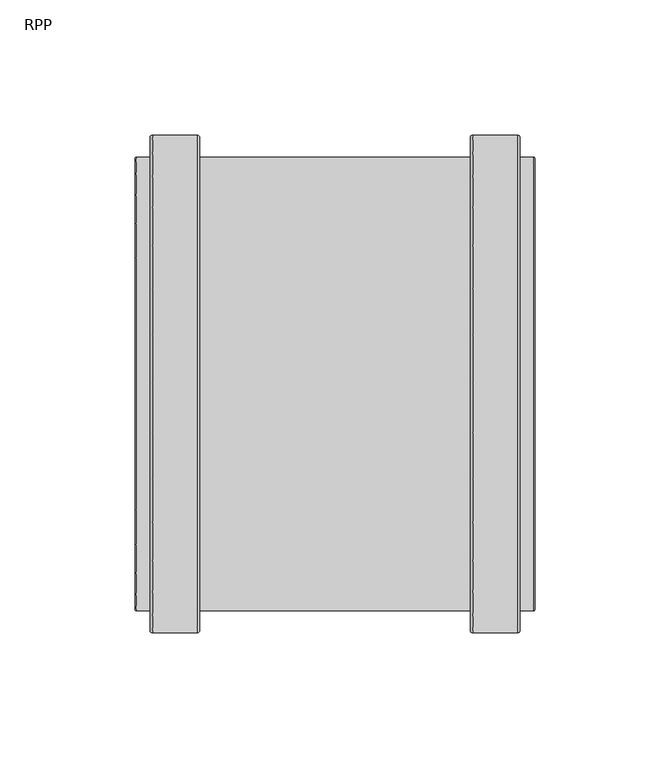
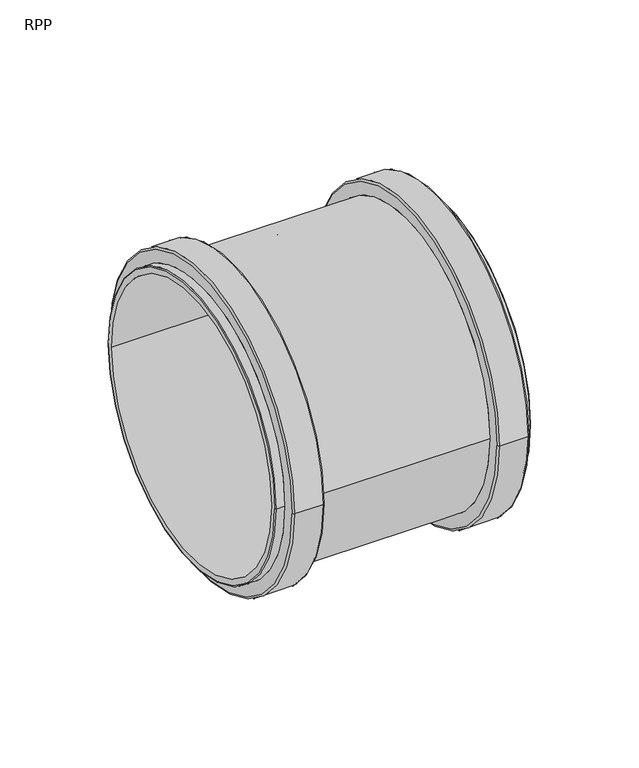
"""IFC4 building model written with IfcOpenShell, lengths in millimetres: pipe fitting geometry, RAUPIANO PLUS Double socket : RPP."""

from ifc_helpers import new_model, si_unit, point, frame, origin, place, context, project, spatial, polyline, circle_curve, ellipse_curve, trimmed, source, transform, mapped, element, save
from ifc_brep_helpers import plane_surface, cylinder_surface, revolved_surface, advanced_brep


def rpp_a5cbb0f9(model_context):
    return source(origin(), model_context, "Body", "AdvancedBrep", [
        advanced_brep(
        [(-67.5, 92.05, 0.0), (-67.5, -92.05, 0.0), (-68.5, -91.05, 0.0), (-68.5, 91.05, 0.0), (-51.1, 92.05, 0.0), (-51.1, -92.05, 0.0), (-50.1, 91.05, 0.0), (-50.1, -91.05, 0.0), (50.1, 83.9, 0.0), (50.1, -83.9, 0.0), (-50.1, -83.9, 0.0), (-50.1, 83.9, 0.0), (51.1, 92.05, 0.0), (51.1, -92.05, 0.0), (50.1, -91.05, 0.0), (50.1, 91.05, 0.0), (67.5, 92.05, 0.0), (67.5, -92.05, 0.0), (68.5, 91.05, 0.0), (68.5, -91.05, 0.0), (73.5, 83.9, 0.0), (73.5, -83.9, 0.0), (68.5, -83.9, 0.0), (68.5, 83.9, 0.0), (74.0, 83.4, 0.0), (74.0, -83.4, 0.0), (1.0, 80.0, 0.0), (1.0, -80.0, 0.0), (74.0, -80.0, 0.0), (74.0, 80.0, 0.0), (-1.0, 77.69828, 0.0), (-1.0, -77.69828, 0.0), (1.0, -77.69828, 0.0), (1.0, 77.69828, 0.0), (-74.0, 80.0, 0.0), (-74.0, -80.0, 0.0), (-1.0, -80.0, 0.0), (-1.0, 80.0, 0.0), (-73.5, 83.9, 0.0), (-73.5, -83.9, 0.0), (-74.0, -83.4, 0.0), (-74.0, 83.4, 0.0), (-68.5, 83.9, 0.0), (-68.5, -83.9, 0.0)],
        [
            (0, 1, circle_curve(frame((-67.5, 0.0, 0.0), z_axis=(-1.0, 0.0, 0.0), x_axis=(0.0, -1.0, 0.0)), 92.05)),
            (1, 2, circle_curve(frame((-67.5, -91.05, 0.0), z_axis=(0.0, 0.0, -1.0), x_axis=(1.0, 0.0, 0.0)), 1.0)),
            (2, 3, circle_curve(frame((-68.5, 0.0, 0.0), z_axis=(1.0, 0.0, 0.0), x_axis=(0.0, -1.0, 0.0)), 91.05)),
            (3, 0, circle_curve(frame((-67.5, 91.05, 0.0), z_axis=(0.0, 0.0, -1.0), x_axis=(1.0, 0.0, 0.0)), 1.0)),
            (4, 5, circle_curve(frame((-51.1, 0.0, 0.0), z_axis=(-1.0, 0.0, 0.0), x_axis=(0.0, -1.0, 0.0)), 92.05)),
            (5, 1),
            (0, 4),
            (6, 7, circle_curve(frame((-50.1, 0.0, 0.0), z_axis=(-1.0, 0.0, 0.0), x_axis=(0.0, -1.0, 0.0)), 91.05)),
            (7, 5, circle_curve(frame((-51.1, -91.05, 0.0), z_axis=(0.0, 0.0, -1.0), x_axis=(1.0, 0.0, 0.0)), 1.0)),
            (4, 6, circle_curve(frame((-51.1, 91.05, 0.0), z_axis=(0.0, 0.0, -1.0), x_axis=(1.0, 0.0, 0.0)), 1.0)),
            (8, 9, circle_curve(frame((50.1, 0.0, 0.0), z_axis=(-1.0, 0.0, 0.0), x_axis=(0.0, -1.0, 0.0)), 83.9)),
            (9, 10),
            (10, 11, circle_curve(frame((-50.1, 0.0, 0.0), z_axis=(1.0, 0.0, 0.0), x_axis=(0.0, -1.0, 0.0)), 83.9)),
            (11, 8),
            (12, 13, circle_curve(frame((51.1, 0.0, 0.0), z_axis=(-1.0, 0.0, 0.0), x_axis=(0.0, -1.0, 0.0)), 92.05)),
            (13, 14, circle_curve(frame((51.1, -91.05, 0.0), z_axis=(0.0, 0.0, -1.0), x_axis=(1.0, 0.0, 0.0)), 1.0)),
            (14, 15, circle_curve(frame((50.1, 0.0, 0.0), z_axis=(1.0, 0.0, 0.0), x_axis=(0.0, -1.0, 0.0)), 91.05)),
            (15, 12, circle_curve(frame((51.1, 91.05, 0.0), z_axis=(0.0, 0.0, -1.0), x_axis=(1.0, 0.0, 0.0)), 1.0)),
            (16, 17, circle_curve(frame((67.5, 0.0, 0.0), z_axis=(-1.0, 0.0, 0.0), x_axis=(0.0, -1.0, 0.0)), 92.05)),
            (17, 13),
            (12, 16),
            (18, 19, circle_curve(frame((68.5, 0.0, 0.0), z_axis=(-1.0, 0.0, 0.0), x_axis=(0.0, -1.0, 0.0)), 91.05)),
            (19, 17, circle_curve(frame((67.5, -91.05, 0.0), z_axis=(0.0, 0.0, -1.0), x_axis=(1.0, 0.0, 0.0)), 1.0)),
            (16, 18, circle_curve(frame((67.5, 91.05, 0.0), z_axis=(0.0, 0.0, -1.0), x_axis=(1.0, 0.0, 0.0)), 1.0)),
            (20, 21, circle_curve(frame((73.5, 0.0, 0.0), z_axis=(-1.0, 0.0, 0.0), x_axis=(0.0, -1.0, 0.0)), 83.9)),
            (21, 22),
            (22, 23, circle_curve(frame((68.5, 0.0, 0.0), z_axis=(1.0, 0.0, 0.0), x_axis=(0.0, -1.0, 0.0)), 83.9)),
            (23, 20),
            (24, 25, circle_curve(frame((74.0, 0.0, 0.0), z_axis=(-1.0, 0.0, 0.0), x_axis=(0.0, -1.0, 0.0)), 83.4)),
            (25, 21, circle_curve(frame((73.5, -83.4, 0.0), z_axis=(0.0, 0.0, -1.0), x_axis=(1.0, 0.0, 0.0)), 0.5)),
            (20, 24, circle_curve(frame((73.5, 83.4, 0.0), z_axis=(0.0, 0.0, -1.0), x_axis=(1.0, 0.0, 0.0)), 0.5)),
            (26, 27, circle_curve(frame((1.0, 0.0, 0.0), z_axis=(-1.0, 0.0, 0.0), x_axis=(0.0, -1.0, 0.0)), 80.0)),
            (27, 28),
            (28, 29, circle_curve(frame((74.0, 0.0, 0.0), z_axis=(1.0, 0.0, 0.0), x_axis=(0.0, -1.0, 0.0)), 80.0)),
            (29, 26),
            (30, 31, circle_curve(frame((-1.0, 0.0, 0.0), z_axis=(-1.0, 0.0, 0.0), x_axis=(0.0, -1.0, 0.0)), 77.69828)),
            (31, 32),
            (32, 33, circle_curve(frame((1.0, 0.0, 0.0), z_axis=(1.0, 0.0, 0.0), x_axis=(0.0, -1.0, 0.0)), 77.69828)),
            (33, 30),
            (34, 35, circle_curve(frame((-74.0, 0.0, 0.0), z_axis=(-1.0, 0.0, 0.0), x_axis=(0.0, -1.0, 0.0)), 80.0)),
            (35, 36),
            (36, 37, circle_curve(frame((-1.0, 0.0, 0.0), z_axis=(1.0, 0.0, 0.0), x_axis=(0.0, -1.0, 0.0)), 80.0)),
            (37, 34),
            (38, 39, circle_curve(frame((-73.5, 0.0, 0.0), z_axis=(-1.0, 0.0, 0.0), x_axis=(0.0, -1.0, 0.0)), 83.9)),
            (39, 40, circle_curve(frame((-73.5, -83.4, 0.0), z_axis=(0.0, 0.0, -1.0), x_axis=(1.0, 0.0, 0.0)), 0.5)),
            (40, 41, circle_curve(frame((-74.0, 0.0, 0.0), z_axis=(1.0, 0.0, 0.0), x_axis=(0.0, -1.0, 0.0)), 83.4)),
            (41, 38, circle_curve(frame((-73.5, 83.4, 0.0), z_axis=(0.0, 0.0, -1.0), x_axis=(1.0, 0.0, 0.0)), 0.5)),
            (42, 43, circle_curve(frame((-68.5, 0.0, 0.0), z_axis=(-1.0, 0.0, 0.0), x_axis=(0.0, -1.0, 0.0)), 83.9)),
            (43, 39),
            (38, 42),
            (2, 3, circle_curve(frame((-68.5, 0.0, 0.0), z_axis=(-1.0, 0.0, 0.0), x_axis=(0.0, 1.0, 0.0)), 91.05)),
            (42, 43, circle_curve(frame((-68.5, 0.0, 0.0), z_axis=(1.0, 0.0, 0.0), x_axis=(0.0, 1.0, 0.0)), 83.9)),
            (1, 0, circle_curve(frame((-67.5, 0.0, 0.0), z_axis=(-1.0, 0.0, 0.0), x_axis=(0.0, 1.0, 0.0)), 92.05)),
            (5, 4, circle_curve(frame((-51.1, 0.0, 0.0), z_axis=(-1.0, 0.0, 0.0), x_axis=(0.0, 1.0, 0.0)), 92.05)),
            (7, 6, circle_curve(frame((-50.1, 0.0, 0.0), z_axis=(-1.0, 0.0, 0.0), x_axis=(0.0, 1.0, 0.0)), 91.05)),
            (10, 11, circle_curve(frame((-50.1, 0.0, 0.0), z_axis=(-1.0, 0.0, 0.0), x_axis=(0.0, 1.0, 0.0)), 83.9)),
            (9, 8, circle_curve(frame((50.1, 0.0, 0.0), z_axis=(-1.0, 0.0, 0.0), x_axis=(0.0, 1.0, 0.0)), 83.9)),
            (14, 15, circle_curve(frame((50.1, 0.0, 0.0), z_axis=(-1.0, 0.0, 0.0), x_axis=(0.0, 1.0, 0.0)), 91.05)),
            (13, 12, circle_curve(frame((51.1, 0.0, 0.0), z_axis=(-1.0, 0.0, 0.0), x_axis=(0.0, 1.0, 0.0)), 92.05)),
            (17, 16, circle_curve(frame((67.5, 0.0, 0.0), z_axis=(-1.0, 0.0, 0.0), x_axis=(0.0, 1.0, 0.0)), 92.05)),
            (19, 18, circle_curve(frame((68.5, 0.0, 0.0), z_axis=(-1.0, 0.0, 0.0), x_axis=(0.0, 1.0, 0.0)), 91.05)),
            (22, 23, circle_curve(frame((68.5, 0.0, 0.0), z_axis=(-1.0, 0.0, 0.0), x_axis=(0.0, 1.0, 0.0)), 83.9)),
            (21, 20, circle_curve(frame((73.5, 0.0, 0.0), z_axis=(-1.0, 0.0, 0.0), x_axis=(0.0, 1.0, 0.0)), 83.9)),
            (25, 24, circle_curve(frame((74.0, 0.0, 0.0), z_axis=(-1.0, 0.0, 0.0), x_axis=(0.0, 1.0, 0.0)), 83.4)),
            (28, 29, circle_curve(frame((74.0, 0.0, 0.0), z_axis=(-1.0, 0.0, 0.0), x_axis=(0.0, 1.0, 0.0)), 80.0)),
            (27, 26, circle_curve(frame((1.0, 0.0, 0.0), z_axis=(-1.0, 0.0, 0.0), x_axis=(0.0, 1.0, 0.0)), 80.0)),
            (32, 33, circle_curve(frame((1.0, 0.0, 0.0), z_axis=(-1.0, 0.0, 0.0), x_axis=(0.0, 1.0, 0.0)), 77.69828)),
            (31, 30, circle_curve(frame((-1.0, 0.0, 0.0), z_axis=(-1.0, 0.0, 0.0), x_axis=(0.0, 1.0, 0.0)), 77.69828)),
            (36, 37, circle_curve(frame((-1.0, 0.0, 0.0), z_axis=(-1.0, 0.0, 0.0), x_axis=(0.0, 1.0, 0.0)), 80.0)),
            (35, 34, circle_curve(frame((-74.0, 0.0, 0.0), z_axis=(-1.0, 0.0, 0.0), x_axis=(0.0, 1.0, 0.0)), 80.0)),
            (40, 41, circle_curve(frame((-74.0, 0.0, 0.0), z_axis=(-1.0, 0.0, 0.0), x_axis=(0.0, 1.0, 0.0)), 83.4)),
            (39, 38, circle_curve(frame((-73.5, 0.0, 0.0), z_axis=(-1.0, 0.0, 0.0), x_axis=(0.0, 1.0, 0.0)), 83.9)),
        ],
        [
            revolved_surface(trimmed(ellipse_curve(frame((-67.5, -91.05, 0.0), z_axis=(0.0, 0.0, 1.0), x_axis=(1.0, 0.0, 0.0)), 1.0, 1.0), [point((-68.5, -91.05, 0.0))], [point((-67.5, -92.05, 0.0))], True, "CARTESIAN"), (0.0, 0.0, 0.0), (1.0, 0.0, 0.0)),
            cylinder_surface(frame((0.0, 0.0, 0.0), z_axis=(1.0, 0.0, 0.0), x_axis=(0.0, -1.0, 0.0)), 92.05),
            revolved_surface(trimmed(ellipse_curve(frame((-51.1, -91.05, 0.0), z_axis=(0.0, 0.0, 1.0), x_axis=(1.0, 0.0, 0.0)), 1.0, 1.0), [point((-51.1, -92.05, 0.0))], [point((-50.1, -91.05, 0.0))], True, "CARTESIAN"), (0.0, 0.0, 0.0), (1.0, 0.0, 0.0)),
            cylinder_surface(frame((0.0, 0.0, 0.0), z_axis=(1.0, 0.0, 0.0), x_axis=(0.0, -1.0, 0.0)), 83.9),
            revolved_surface(trimmed(ellipse_curve(frame((51.1, -91.05, 0.0), z_axis=(0.0, 0.0, 1.0), x_axis=(1.0, 0.0, 0.0)), 1.0, 1.0), [point((50.1, -91.05, 0.0))], [point((51.1, -92.05, 0.0))], True, "CARTESIAN"), (0.0, 0.0, 0.0), (1.0, 0.0, 0.0)),
            revolved_surface(trimmed(ellipse_curve(frame((67.5, -91.05, 0.0), z_axis=(0.0, 0.0, 1.0), x_axis=(1.0, 0.0, 0.0)), 1.0, 1.0), [point((67.5, -92.05, 0.0))], [point((68.5, -91.05, 0.0))], True, "CARTESIAN"), (0.0, 0.0, 0.0), (1.0, 0.0, 0.0)),
            revolved_surface(trimmed(ellipse_curve(frame((73.5, -83.4, 0.0), z_axis=(0.0, 0.0, 1.0), x_axis=(1.0, 0.0, 0.0)), 0.5, 0.5), [point((73.5, -83.9, 0.0))], [point((74.0, -83.4, 0.0))], True, "CARTESIAN"), (0.0, 0.0, 0.0), (1.0, 0.0, 0.0)),
            revolved_surface(polyline([(74.0, -80.0, 0.0), (1.0, -80.0, 0.0)]), (0.0, 0.0, 0.0), (1.0, 0.0, 0.0)),
            revolved_surface(polyline([(1.0, -77.69828, 0.0), (-1.0, -77.69828, 0.0)]), (0.0, 0.0, 0.0), (1.0, 0.0, 0.0)),
            revolved_surface(polyline([(-1.0, -80.0, 0.0), (-74.0, -80.0, 0.0)]), (0.0, 0.0, 0.0), (1.0, 0.0, 0.0)),
            revolved_surface(trimmed(ellipse_curve(frame((-73.5, -83.4, 0.0), z_axis=(0.0, 0.0, 1.0), x_axis=(1.0, 0.0, 0.0)), 0.5, 0.5), [point((-74.0, -83.4, 0.0))], [point((-73.5, -83.9, 0.0))], True, "CARTESIAN"), (0.0, 0.0, 0.0), (1.0, 0.0, 0.0)),
            plane_surface(frame((-68.5, 0.0, 0.0), z_axis=(-1.0, 0.0, 0.0), x_axis=(0.0, 1.0, 0.0))),
            revolved_surface(trimmed(ellipse_curve(frame((-67.5, 91.05, 0.0), z_axis=(0.0, 0.0, -1.0), x_axis=(1.0, 0.0, 0.0)), 1.0, 1.0), [point((-68.5, 91.05, 0.0))], [point((-67.5, 92.05, 0.0))], True, "CARTESIAN"), (0.0, 0.0, 0.0), (1.0, 0.0, 0.0)),
            cylinder_surface(frame((0.0, 0.0, 0.0), z_axis=(1.0, 0.0, 0.0), x_axis=(0.0, 1.0, 0.0)), 92.05),
            revolved_surface(trimmed(ellipse_curve(frame((-51.1, 91.05, 0.0), z_axis=(0.0, 0.0, -1.0), x_axis=(1.0, 0.0, 0.0)), 1.0, 1.0), [point((-51.1, 92.05, 0.0))], [point((-50.1, 91.05, 0.0))], True, "CARTESIAN"), (0.0, 0.0, 0.0), (1.0, 0.0, 0.0)),
            plane_surface(frame((-50.1, 0.0, 0.0), z_axis=(1.0, 0.0, 0.0), x_axis=(0.0, 1.0, 0.0))),
            cylinder_surface(frame((0.0, 0.0, 0.0), z_axis=(1.0, 0.0, 0.0), x_axis=(0.0, 1.0, 0.0)), 83.9),
            plane_surface(frame((50.1, 0.0, 0.0), z_axis=(-1.0, 0.0, 0.0), x_axis=(0.0, 1.0, 0.0))),
            revolved_surface(trimmed(ellipse_curve(frame((51.1, 91.05, 0.0), z_axis=(0.0, 0.0, -1.0), x_axis=(1.0, 0.0, 0.0)), 1.0, 1.0), [point((50.1, 91.05, 0.0))], [point((51.1, 92.05, 0.0))], True, "CARTESIAN"), (0.0, 0.0, 0.0), (1.0, 0.0, 0.0)),
            revolved_surface(trimmed(ellipse_curve(frame((67.5, 91.05, 0.0), z_axis=(0.0, 0.0, -1.0), x_axis=(1.0, 0.0, 0.0)), 1.0, 1.0), [point((67.5, 92.05, 0.0))], [point((68.5, 91.05, 0.0))], True, "CARTESIAN"), (0.0, 0.0, 0.0), (1.0, 0.0, 0.0)),
            plane_surface(frame((68.5, 0.0, 0.0), z_axis=(1.0, 0.0, 0.0), x_axis=(0.0, 1.0, 0.0))),
            revolved_surface(trimmed(ellipse_curve(frame((73.5, 83.4, 0.0), z_axis=(0.0, 0.0, -1.0), x_axis=(1.0, 0.0, 0.0)), 0.5, 0.5), [point((73.5, 83.9, 0.0))], [point((74.0, 83.4, 0.0))], True, "CARTESIAN"), (0.0, 0.0, 0.0), (1.0, 0.0, 0.0)),
            plane_surface(frame((74.0, 0.0, 0.0), z_axis=(1.0, 0.0, 0.0), x_axis=(0.0, 1.0, 0.0))),
            revolved_surface(polyline([(74.0, 80.0, 0.0), (1.0, 80.0, 0.0)]), (0.0, 0.0, 0.0), (1.0, 0.0, 0.0)),
            plane_surface(frame((1.0, 0.0, 0.0), z_axis=(1.0, 0.0, 0.0), x_axis=(0.0, 1.0, 0.0))),
            revolved_surface(polyline([(1.0, 77.69828, 0.0), (-1.0, 77.69828, 0.0)]), (0.0, 0.0, 0.0), (1.0, 0.0, 0.0)),
            plane_surface(frame((-1.0, 0.0, 0.0), z_axis=(-1.0, 0.0, 0.0), x_axis=(0.0, 1.0, 0.0))),
            revolved_surface(polyline([(-1.0, 80.0, 0.0), (-74.0, 80.0, 0.0)]), (0.0, 0.0, 0.0), (1.0, 0.0, 0.0)),
            plane_surface(frame((-74.0, 0.0, 0.0), z_axis=(-1.0, 0.0, 0.0), x_axis=(0.0, 1.0, 0.0))),
            revolved_surface(trimmed(ellipse_curve(frame((-73.5, 83.4, 0.0), z_axis=(0.0, 0.0, -1.0), x_axis=(1.0, 0.0, 0.0)), 0.5, 0.5), [point((-74.0, 83.4, 0.0))], [point((-73.5, 83.9, 0.0))], True, "CARTESIAN"), (0.0, 0.0, 0.0), (1.0, 0.0, 0.0)),
        ],
        [
            (0, [[1, 2, 3, 4]]),
            (1, [[5, 6, -1, 7]]),
            (2, [[8, 9, -5, 10]]),
            (3, [[11, 12, 13, 14]]),
            (4, [[15, 16, 17, 18]]),
            (1, [[19, 20, -15, 21]]),
            (5, [[22, 23, -19, 24]]),
            (3, [[25, 26, 27, 28]]),
            (6, [[29, 30, -25, 31]]),
            (7, [[32, 33, 34, 35]]),
            (8, [[36, 37, 38, 39]]),
            (9, [[40, 41, 42, 43]]),
            (10, [[44, 45, 46, 47]]),
            (3, [[48, 49, -44, 50]]),
            (11, [[51, -3], [52, -48]]),
            (12, [[53, -4, -51, -2]]),
            (13, [[54, -7, -53, -6]]),
            (14, [[55, -10, -54, -9]]),
            (15, [[-55, -8], [56, -13]]),
            (16, [[57, -14, -56, -12]]),
            (17, [[58, -17], [-57, -11]]),
            (18, [[59, -18, -58, -16]]),
            (13, [[60, -21, -59, -20]]),
            (19, [[61, -24, -60, -23]]),
            (20, [[-61, -22], [62, -27]]),
            (16, [[63, -28, -62, -26]]),
            (21, [[64, -31, -63, -30]]),
            (22, [[-64, -29], [65, -34]]),
            (23, [[66, -35, -65, -33]]),
            (24, [[-66, -32], [67, -38]]),
            (25, [[68, -39, -67, -37]]),
            (26, [[69, -42], [-68, -36]]),
            (27, [[70, -43, -69, -41]]),
            (28, [[71, -46], [-70, -40]]),
            (29, [[72, -47, -71, -45]]),
            (16, [[-52, -50, -72, -49]]),
        ],
    ),
    ])


if __name__ == "__main__":
    model = new_model("IFC4")
    model_context = context("Model", 3, world=origin())
    ifc_project = project(units=[si_unit("LENGTHUNIT", "METRE", prefix="MILLI")], contexts=[model_context])
    site = spatial("IfcSite", under=ifc_project)
    building = spatial("IfcBuilding", under=site)
    placement = place(None, origin())
    rpp_shape = rpp_a5cbb0f9(model_context)
    element("IfcPipeFitting", 1, ObjectType="RAUPIANO PLUS Double socket : RPP", at=placement, inside=building, context=model_context, shape_type="MappedRepresentation", body=[
        mapped(rpp_shape, transform((0.0, 0.0, 0.0), x_axis=(1.0, 0.0, 0.0), y_axis=(0.0, 1.0, 0.0), z_axis=(0.0, 0.0, 1.0))),
    ])
    save(model, "model.ifc")
